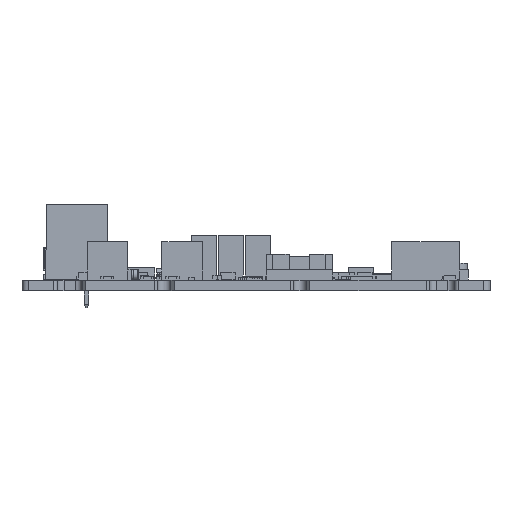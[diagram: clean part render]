
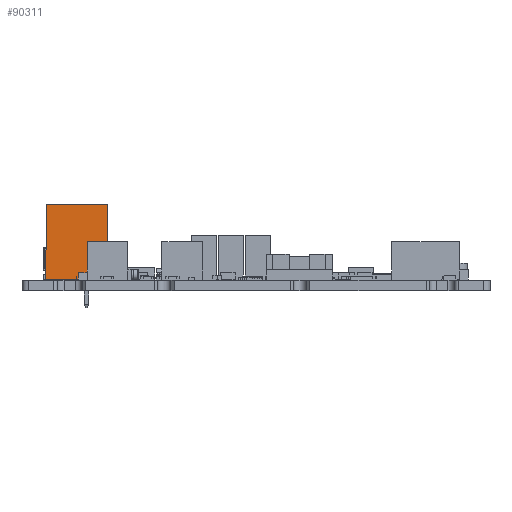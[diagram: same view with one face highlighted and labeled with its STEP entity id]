
A CAD part, left-side view. The second image highlights one B-rep face of the part: STEP entity #90311.
In plain terms, the highlighted planar face has unit normal (-1, 0, 0.009).
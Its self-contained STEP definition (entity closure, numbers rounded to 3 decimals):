
#90278 = VERTEX_POINT('',#90279);
#90279 = CARTESIAN_POINT('',(49.797,65.403,
    11.15));
#90285 = EDGE_CURVE('',#90278,#90286,#90288,.T.);
#90286 = VERTEX_POINT('',#90287);
#90287 = CARTESIAN_POINT('',(49.797,56.397,
    11.15));
#90288 = LINE('',#90289,#90290);
#90289 = CARTESIAN_POINT('',(49.797,65.403,
    11.15));
#90290 = VECTOR('',#90291,1.);
#90291 = DIRECTION('',(0.,-1.,0.));
#90311 = ADVANCED_FACE('',(#90312),#90337,.T.);
#90312 = FACE_BOUND('',#90313,.T.);
#90313 = EDGE_LOOP('',(#90314,#90322,#90323,#90331));
#90314 = ORIENTED_EDGE('',*,*,#90315,.F.);
#90315 = EDGE_CURVE('',#90286,#90316,#90318,.T.);
#90316 = VERTEX_POINT('',#90317);
#90317 = CARTESIAN_POINT('',(49.7,56.3,
    0.05));
#90318 = LINE('',#90319,#90320);
#90319 = CARTESIAN_POINT('',(49.797,56.397,
    11.15));
#90320 = VECTOR('',#90321,1.);
#90321 = DIRECTION('',(-0.009,-0.009,
    -1.));
#90322 = ORIENTED_EDGE('',*,*,#90285,.F.);
#90323 = ORIENTED_EDGE('',*,*,#90324,.T.);
#90324 = EDGE_CURVE('',#90278,#90325,#90327,.T.);
#90325 = VERTEX_POINT('',#90326);
#90326 = CARTESIAN_POINT('',(49.7,65.5,
    0.05));
#90327 = LINE('',#90328,#90329);
#90328 = CARTESIAN_POINT('',(49.797,65.403,
    11.15));
#90329 = VECTOR('',#90330,1.);
#90330 = DIRECTION('',(-0.009,0.009,
    -1.));
#90331 = ORIENTED_EDGE('',*,*,#90332,.T.);
#90332 = EDGE_CURVE('',#90325,#90316,#90333,.T.);
#90333 = LINE('',#90334,#90335);
#90334 = CARTESIAN_POINT('',(49.7,65.5,
    0.05));
#90335 = VECTOR('',#90336,1.);
#90336 = DIRECTION('',(0.,-1.,0.));
#90337 = PLANE('',#90338);
#90338 = AXIS2_PLACEMENT_3D('',#90339,#90340,#90341);
#90339 = CARTESIAN_POINT('',(49.7,55.269,
    0.05));
#90340 = DIRECTION('',(-1.,0.,
    0.009));
#90341 = DIRECTION('',(-0.009,0.,
    -1.));
